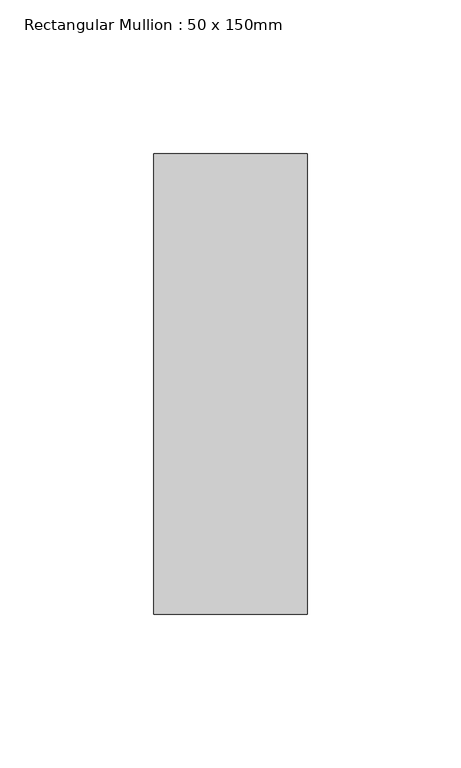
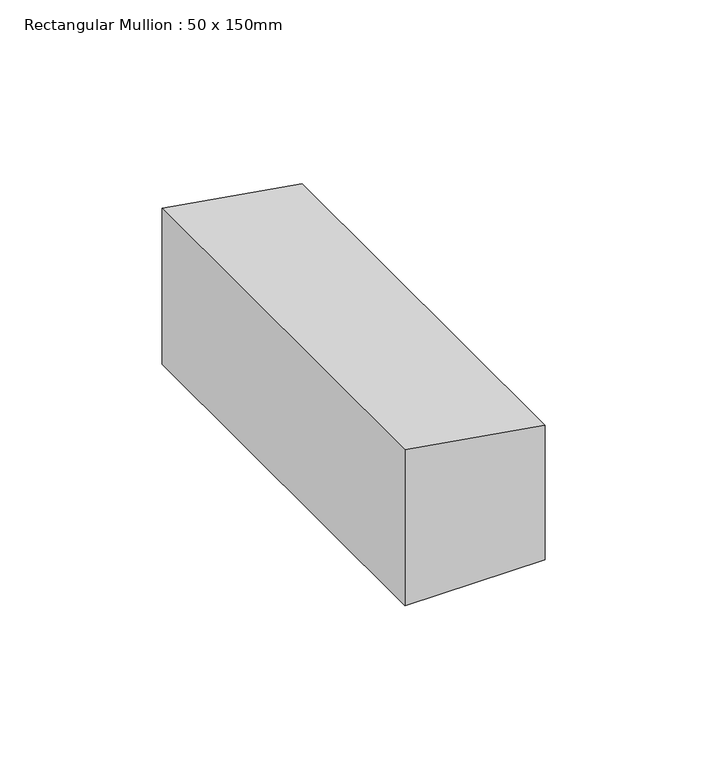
"""IFC4 building model written with IfcOpenShell, lengths in millimetres: member geometry, Rectangular Mullion : 50 x 150mm."""

from ifc_helpers import new_model, si_unit, frame, origin, place, context, project, spatial, polyline, outline, extrude, source, transform, mapped, element, save


def rectangular_mullion_50_x_150mm_a9455368(model_context):
    return source(origin(), model_context, "Body", "SweptSolid", [
        extrude(outline(polyline([(0.0, 0.0), (8.1649945, -50.0), (-50.4614514, -50.0), (-50.6228546, 0.0), (0.0, 0.0)])), frame((0.0, -75.0, 0.0), z_axis=(0.0, 1.0, 0.0), x_axis=(0.0, 0.0, 1.0)), (0.0, 0.0, 1.0), 150.0),
    ])


if __name__ == "__main__":
    model = new_model("IFC4")
    model_context = context("Model", 3, world=origin())
    ifc_project = project(units=[si_unit("LENGTHUNIT", "METRE", prefix="MILLI")], contexts=[model_context])
    site = spatial("IfcSite", under=ifc_project)
    building = spatial("IfcBuilding", under=site)
    placement = place(None, origin())
    rectangular_mullion_50_x_150mm_shape = rectangular_mullion_50_x_150mm_a9455368(model_context)
    element("IfcMember", 1, ObjectType="Rectangular Mullion : 50 x 150mm", at=placement, inside=building, context=model_context, shape_type="MappedRepresentation", body=[
        mapped(rectangular_mullion_50_x_150mm_shape, transform((0.0, 0.0, 0.0), x_axis=(1.0, 0.0, 0.0), y_axis=(0.0, 1.0, 0.0), z_axis=(0.0, 0.0, 1.0))),
    ])
    save(model, "model.ifc")
